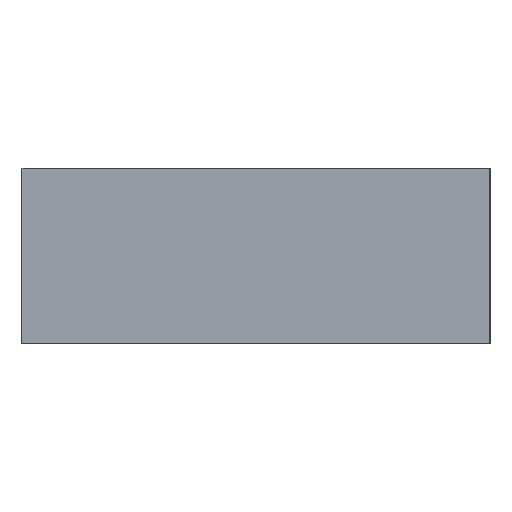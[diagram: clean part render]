
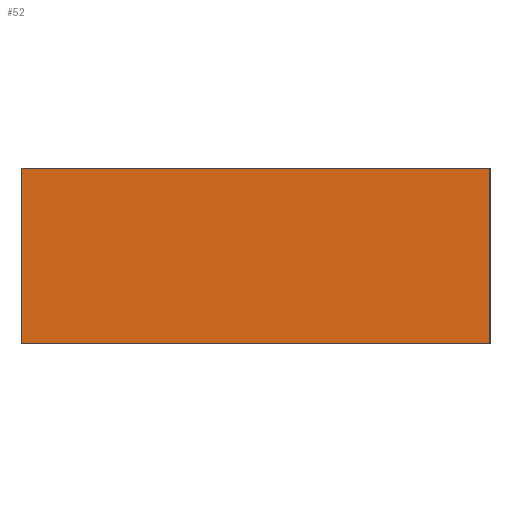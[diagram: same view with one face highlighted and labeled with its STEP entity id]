
A CAD part, left-side view. The second image highlights one B-rep face of the part: STEP entity #52.
In plain terms, the highlighted planar face has unit normal (-1, 0, 0).
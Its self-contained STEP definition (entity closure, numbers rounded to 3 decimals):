
#52 = ADVANCED_FACE( '', ( #106 ), #107, .F. );
#106 = FACE_OUTER_BOUND( '', #159, .T. );
#107 = PLANE( '', #160 );
#159 = EDGE_LOOP( '', ( #235, #236, #237, #238 ) );
#160 = AXIS2_PLACEMENT_3D( '', #239, #240, #241 );
#235 = ORIENTED_EDGE( '', *, *, #324, .T. );
#236 = ORIENTED_EDGE( '', *, *, #316, .F. );
#237 = ORIENTED_EDGE( '', *, *, #325, .F. );
#238 = ORIENTED_EDGE( '', *, *, #297, .T. );
#239 = CARTESIAN_POINT( '', ( -6., 0., 6. ) );
#240 = DIRECTION( '', ( 1., 0., 0. ) );
#241 = DIRECTION( '', ( 0., 0., -1. ) );
#297 = EDGE_CURVE( '', #342, #340, #343, .T. );
#316 = EDGE_CURVE( '', #373, #368, #375, .T. );
#324 = EDGE_CURVE( '', #340, #368, #386, .T. );
#325 = EDGE_CURVE( '', #342, #373, #387, .T. );
#340 = VERTEX_POINT( '', #402 );
#342 = VERTEX_POINT( '', #405 );
#343 = LINE( '', #406, #407 );
#368 = VERTEX_POINT( '', #441 );
#373 = VERTEX_POINT( '', #448 );
#375 = LINE( '', #451, #452 );
#386 = LINE( '', #466, #467 );
#387 = LINE( '', #468, #469 );
#402 = CARTESIAN_POINT( '', ( -6., 0., -6. ) );
#405 = CARTESIAN_POINT( '', ( -6., 0., 6. ) );
#406 = CARTESIAN_POINT( '', ( -6., 0., 6. ) );
#407 = VECTOR( '', #488, 1000. );
#441 = CARTESIAN_POINT( '', ( -6., -32., -6. ) );
#448 = CARTESIAN_POINT( '', ( -6., -32., 6. ) );
#451 = CARTESIAN_POINT( '', ( -6., -32., 6. ) );
#452 = VECTOR( '', #507, 1000. );
#466 = CARTESIAN_POINT( '', ( -6., 0., -6. ) );
#467 = VECTOR( '', #514, 1000. );
#468 = CARTESIAN_POINT( '', ( -6., 0., 6. ) );
#469 = VECTOR( '', #515, 1000. );
#488 = DIRECTION( '', ( 0., 0., -1. ) );
#507 = DIRECTION( '', ( 0., 0., -1. ) );
#514 = DIRECTION( '', ( 0., -1., 0. ) );
#515 = DIRECTION( '', ( 0., -1., 0. ) );
